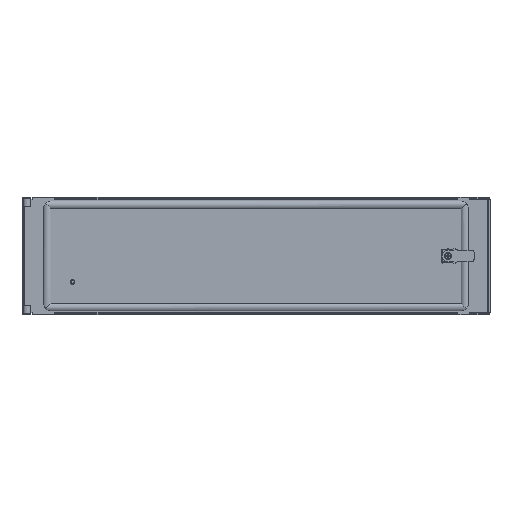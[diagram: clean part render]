
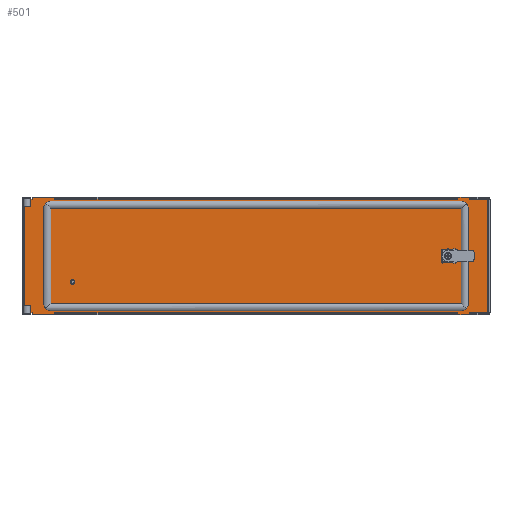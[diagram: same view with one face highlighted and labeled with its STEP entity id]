
A CAD part, top view. The second image highlights one B-rep face of the part: STEP entity #501.
In plain terms, the highlighted planar face has unit normal (0, 0, 1) as drawn and (0, 0, -1) by its records, which use the part's own axes.
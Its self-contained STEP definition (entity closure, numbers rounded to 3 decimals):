
#501=ADVANCED_FACE('',(#2674,#2676,#2678),#2680,.T.);
#2674=FACE_BOUND('',#2675,.T.);
#2675=EDGE_LOOP('',(#5351,#5352,#5353,#5354,#5355,#5356,#5357,#5358,#5359,#5360,
#5361,#5362,#5363,#5364,#5365,#5366,#5367,#5368,#5369,#5370,#5371,#5372,#5373,#5374,
#5375,#5376,#5377,#5378));
#2676=FACE_BOUND('',#2677,.T.);
#2677=EDGE_LOOP('',(#5379));
#2678=FACE_BOUND('',#2679,.T.);
#2679=EDGE_LOOP('',(#5380,#5381,#5382,#5383));
#2680=PLANE('',#2681);
#2681=AXIS2_PLACEMENT_3D('',#2682,#2683,#2684);
#2682=CARTESIAN_POINT('',(0.,0.,-2.));
#2683=DIRECTION('',(0.,0.,-1.));
#2684=DIRECTION('',(-1.,0.,0.));
#5351=ORIENTED_EDGE('',*,*,#7125,.F.);
#5352=ORIENTED_EDGE('',*,*,#7105,.F.);
#5353=ORIENTED_EDGE('',*,*,#7032,.F.);
#5354=ORIENTED_EDGE('',*,*,#7126,.F.);
#5355=ORIENTED_EDGE('',*,*,#7127,.F.);
#5356=ORIENTED_EDGE('',*,*,#7128,.F.);
#5357=ORIENTED_EDGE('',*,*,#7129,.F.);
#5358=ORIENTED_EDGE('',*,*,#7101,.F.);
#5359=ORIENTED_EDGE('',*,*,#7036,.F.);
#5360=ORIENTED_EDGE('',*,*,#7130,.F.);
#5361=ORIENTED_EDGE('',*,*,#7131,.F.);
#5362=ORIENTED_EDGE('',*,*,#7132,.F.);
#5363=ORIENTED_EDGE('',*,*,#7133,.F.);
#5364=ORIENTED_EDGE('',*,*,#7134,.F.);
#5365=ORIENTED_EDGE('',*,*,#7135,.F.);
#5366=ORIENTED_EDGE('',*,*,#7056,.F.);
#5367=ORIENTED_EDGE('',*,*,#7029,.F.);
#5368=ORIENTED_EDGE('',*,*,#7136,.T.);
#5369=ORIENTED_EDGE('',*,*,#7137,.T.);
#5370=ORIENTED_EDGE('',*,*,#7138,.T.);
#5371=ORIENTED_EDGE('',*,*,#7023,.F.);
#5372=ORIENTED_EDGE('',*,*,#7054,.F.);
#5373=ORIENTED_EDGE('',*,*,#7021,.F.);
#5374=ORIENTED_EDGE('',*,*,#7139,.T.);
#5375=ORIENTED_EDGE('',*,*,#7140,.T.);
#5376=ORIENTED_EDGE('',*,*,#7141,.T.);
#5377=ORIENTED_EDGE('',*,*,#7015,.F.);
#5378=ORIENTED_EDGE('',*,*,#7062,.F.);
#5379=ORIENTED_EDGE('',*,*,#7014,.F.);
#5380=ORIENTED_EDGE('',*,*,#7142,.F.);
#5381=ORIENTED_EDGE('',*,*,#7143,.F.);
#5382=ORIENTED_EDGE('',*,*,#7144,.F.);
#5383=ORIENTED_EDGE('',*,*,#7145,.F.);
#7014=EDGE_CURVE('',#7916,#7916,#7917,.T.);
#7015=EDGE_CURVE('',#7918,#7919,#7920,.T.);
#7021=EDGE_CURVE('',#7929,#7931,#7932,.T.);
#7023=EDGE_CURVE('',#7934,#7935,#7936,.T.);
#7029=EDGE_CURVE('',#7945,#7947,#7948,.T.);
#7032=EDGE_CURVE('',#7950,#7953,#7954,.T.);
#7036=EDGE_CURVE('',#7958,#7961,#7962,.T.);
#7054=EDGE_CURVE('',#7931,#7934,#7991,.T.);
#7056=EDGE_CURVE('',#7947,#7994,#7995,.T.);
#7062=EDGE_CURVE('',#8003,#7918,#8005,.T.);
#7101=EDGE_CURVE('',#7961,#8068,#8069,.T.);
#7105=EDGE_CURVE('',#7953,#8075,#8076,.T.);
#7125=EDGE_CURVE('',#8075,#8003,#8106,.T.);
#7126=EDGE_CURVE('',#8107,#7950,#8108,.T.);
#7127=EDGE_CURVE('',#8109,#8107,#8110,.T.);
#7128=EDGE_CURVE('',#8111,#8109,#8112,.T.);
#7129=EDGE_CURVE('',#8068,#8111,#8113,.T.);
#7130=EDGE_CURVE('',#8114,#7958,#8115,.T.);
#7131=EDGE_CURVE('',#8116,#8114,#8117,.T.);
#7132=EDGE_CURVE('',#8118,#8116,#8119,.T.);
#7133=EDGE_CURVE('',#8120,#8118,#8121,.T.);
#7134=EDGE_CURVE('',#8122,#8120,#8123,.T.);
#7135=EDGE_CURVE('',#7994,#8122,#8124,.T.);
#7136=EDGE_CURVE('',#7945,#8125,#8126,.T.);
#7137=EDGE_CURVE('',#8125,#8127,#8128,.T.);
#7138=EDGE_CURVE('',#8127,#7935,#8129,.T.);
#7139=EDGE_CURVE('',#7929,#8130,#8131,.T.);
#7140=EDGE_CURVE('',#8130,#8132,#8133,.T.);
#7141=EDGE_CURVE('',#8132,#7919,#8134,.T.);
#7142=EDGE_CURVE('',#8135,#8136,#8137,.T.);
#7143=EDGE_CURVE('',#8138,#8135,#8139,.T.);
#7144=EDGE_CURVE('',#8140,#8138,#8141,.T.);
#7145=EDGE_CURVE('',#8136,#8140,#8142,.T.);
#7916=VERTEX_POINT('',#9404);
#7917=CIRCLE('',#9405,0.5);
#7918=VERTEX_POINT('',#9409);
#7919=VERTEX_POINT('',#9410);
#7920=LINE('',#9411,#9412);
#7929=VERTEX_POINT('',#9430);
#7931=VERTEX_POINT('',#9434);
#7932=LINE('',#9435,#9436);
#7934=VERTEX_POINT('',#9441);
#7935=VERTEX_POINT('',#9442);
#7936=LINE('',#9443,#9444);
#7945=VERTEX_POINT('',#9462);
#7947=VERTEX_POINT('',#9466);
#7948=LINE('',#9467,#9468);
#7950=VERTEX_POINT('',#9473);
#7953=VERTEX_POINT('',#9478);
#7954=LINE('',#9479,#9480);
#7958=VERTEX_POINT('',#9489);
#7961=VERTEX_POINT('',#9494);
#7962=LINE('',#9495,#9496);
#7991=LINE('',#9594,#9595);
#7994=VERTEX_POINT('',#9602);
#7995=LINE('',#9603,#9604);
#8003=VERTEX_POINT('',#9635);
#8005=LINE('',#9652,#9653);
#8068=VERTEX_POINT('',#9811);
#8069=LINE('',#9812,#9813);
#8075=VERTEX_POINT('',#9828);
#8076=LINE('',#9829,#9830);
#8106=LINE('',#9912,#9913);
#8107=VERTEX_POINT('',#9915);
#8108=LINE('',#9916,#9917);
#8109=VERTEX_POINT('',#9919);
#8110=LINE('',#9920,#9921);
#8111=VERTEX_POINT('',#9923);
#8112=LINE('',#9924,#9925);
#8113=LINE('',#9927,#9928);
#8114=VERTEX_POINT('',#9930);
#8115=LINE('',#9931,#9932);
#8116=VERTEX_POINT('',#9934);
#8117=LINE('',#9935,#9936);
#8118=VERTEX_POINT('',#9938);
#8119=LINE('',#9939,#9940);
#8120=VERTEX_POINT('',#9942);
#8121=LINE('',#9943,#9944);
#8122=VERTEX_POINT('',#9946);
#8123=LINE('',#9947,#9948);
#8124=LINE('',#9950,#9951);
#8125=VERTEX_POINT('',#9953);
#8126=LINE('',#9954,#9955);
#8127=VERTEX_POINT('',#9957);
#8128=LINE('',#9958,#9959);
#8129=LINE('',#9961,#9962);
#8130=VERTEX_POINT('',#9964);
#8131=LINE('',#9965,#9966);
#8132=VERTEX_POINT('',#9968);
#8133=LINE('',#9969,#9970);
#8134=LINE('',#9972,#9973);
#8135=VERTEX_POINT('',#9975);
#8136=VERTEX_POINT('',#9976);
#8137=LINE('',#9977,#9978);
#8138=VERTEX_POINT('',#9980);
#8139=LINE('',#9981,#9982);
#8140=VERTEX_POINT('',#9984);
#8141=LINE('',#9985,#9986);
#8142=LINE('',#9988,#9989);
#9404=CARTESIAN_POINT('',(307.7,-43.5,-2.));
#9405=AXIS2_PLACEMENT_3D('',#9406,#9407,#9408);
#9406=CARTESIAN_POINT('',(308.2,-43.5,-2.));
#9407=DIRECTION('',(0.,0.,-1.));
#9408=DIRECTION('',(1.,0.,0.));
#9409=CARTESIAN_POINT('',(-360.7,-95.1,-2.));
#9410=CARTESIAN_POINT('',(-358.7,-95.1,-2.));
#9411=CARTESIAN_POINT('',(-360.7,-95.1,-2.));
#9412=VECTOR('',#9413,1.);
#9413=DIRECTION('',(1.,0.,0.));
#9430=CARTESIAN_POINT('',(-339.2,-95.1,-2.));
#9434=CARTESIAN_POINT('',(-337.2,-95.1,-2.));
#9435=CARTESIAN_POINT('',(-339.2,-95.1,-2.));
#9436=VECTOR('',#9437,1.);
#9437=DIRECTION('',(1.,0.,0.));
#9441=CARTESIAN_POINT('',(336.2,-95.1,-2.));
#9442=CARTESIAN_POINT('',(338.2,-95.1,-2.));
#9443=CARTESIAN_POINT('',(336.2,-95.1,-2.));
#9444=VECTOR('',#9445,1.);
#9445=DIRECTION('',(1.,0.,0.));
#9462=CARTESIAN_POINT('',(376.2,-95.1,-2.));
#9466=CARTESIAN_POINT('',(378.2,-95.1,-2.));
#9467=CARTESIAN_POINT('',(376.2,-95.1,-2.));
#9468=VECTOR('',#9469,1.);
#9469=DIRECTION('',(1.,0.,0.));
#9473=CARTESIAN_POINT('',(-358.7,95.1,-2.));
#9478=CARTESIAN_POINT('',(-360.7,95.1,-2.));
#9479=CARTESIAN_POINT('',(-358.7,95.1,-2.));
#9480=VECTOR('',#9481,1.);
#9481=DIRECTION('',(-1.,0.,0.));
#9489=CARTESIAN_POINT('',(338.2,95.1,-2.));
#9494=CARTESIAN_POINT('',(336.2,95.1,-2.));
#9495=CARTESIAN_POINT('',(338.2,95.1,-2.));
#9496=VECTOR('',#9497,1.);
#9497=DIRECTION('',(-1.,0.,0.));
#9594=CARTESIAN_POINT('',(-337.2,-95.1,-2.));
#9595=VECTOR('',#9596,1.);
#9596=DIRECTION('',(1.,0.,0.));
#9602=CARTESIAN_POINT('',(389.8,-95.1,-2.));
#9603=CARTESIAN_POINT('',(378.2,-95.1,-2.));
#9604=VECTOR('',#9605,1.);
#9605=DIRECTION('',(1.,0.,0.));
#9635=CARTESIAN_POINT('',(-389.8,-95.1,-2.));
#9652=CARTESIAN_POINT('',(-389.8,-95.1,-2.));
#9653=VECTOR('',#9654,1.);
#9654=DIRECTION('',(1.,0.,0.));
#9811=CARTESIAN_POINT('',(-337.2,95.1,-2.));
#9812=CARTESIAN_POINT('',(336.2,95.1,-2.));
#9813=VECTOR('',#9814,1.);
#9814=DIRECTION('',(-1.,0.,0.));
#9828=CARTESIAN_POINT('',(-389.8,95.1,-2.));
#9829=CARTESIAN_POINT('',(-360.7,95.1,-2.));
#9830=VECTOR('',#9831,1.);
#9831=DIRECTION('',(-1.,0.,0.));
#9912=CARTESIAN_POINT('',(-389.8,95.1,-2.));
#9913=VECTOR('',#9914,1.);
#9914=DIRECTION('',(0.,-1.,0.));
#9915=CARTESIAN_POINT('',(-358.7,98.5,-2.));
#9916=CARTESIAN_POINT('',(-358.7,98.5,-2.));
#9917=VECTOR('',#9918,1.);
#9918=DIRECTION('',(0.,-1.,0.));
#9919=CARTESIAN_POINT('',(-339.2,98.5,-2.));
#9920=CARTESIAN_POINT('',(-339.2,98.5,-2.));
#9921=VECTOR('',#9922,1.);
#9922=DIRECTION('',(-1.,0.,0.));
#9923=CARTESIAN_POINT('',(-339.2,95.1,-2.));
#9924=CARTESIAN_POINT('',(-339.2,95.1,-2.));
#9925=VECTOR('',#9926,1.);
#9926=DIRECTION('',(0.,1.,0.));
#9927=CARTESIAN_POINT('',(-337.2,95.1,-2.));
#9928=VECTOR('',#9929,1.);
#9929=DIRECTION('',(-1.,0.,0.));
#9930=CARTESIAN_POINT('',(338.2,98.5,-2.));
#9931=CARTESIAN_POINT('',(338.2,98.5,-2.));
#9932=VECTOR('',#9933,1.);
#9933=DIRECTION('',(0.,-1.,0.));
#9934=CARTESIAN_POINT('',(376.2,98.5,-2.));
#9935=CARTESIAN_POINT('',(376.2,98.5,-2.));
#9936=VECTOR('',#9937,1.);
#9937=DIRECTION('',(-1.,0.,0.));
#9938=CARTESIAN_POINT('',(376.2,95.1,-2.));
#9939=CARTESIAN_POINT('',(376.2,95.1,-2.));
#9940=VECTOR('',#9941,1.);
#9941=DIRECTION('',(0.,1.,0.));
#9942=CARTESIAN_POINT('',(378.2,95.1,-2.));
#9943=CARTESIAN_POINT('',(378.2,95.1,-2.));
#9944=VECTOR('',#9945,1.);
#9945=DIRECTION('',(-1.,0.,0.));
#9946=CARTESIAN_POINT('',(389.8,95.1,-2.));
#9947=CARTESIAN_POINT('',(389.8,95.1,-2.));
#9948=VECTOR('',#9949,1.);
#9949=DIRECTION('',(-1.,0.,0.));
#9950=CARTESIAN_POINT('',(389.8,-95.1,-2.));
#9951=VECTOR('',#9952,1.);
#9952=DIRECTION('',(0.,1.,0.));
#9953=CARTESIAN_POINT('',(376.2,-98.5,-2.));
#9954=CARTESIAN_POINT('',(376.2,-95.1,-2.));
#9955=VECTOR('',#9956,1.);
#9956=DIRECTION('',(0.,-1.,0.));
#9957=CARTESIAN_POINT('',(338.2,-98.5,-2.));
#9958=CARTESIAN_POINT('',(376.2,-98.5,-2.));
#9959=VECTOR('',#9960,1.);
#9960=DIRECTION('',(-1.,0.,0.));
#9961=CARTESIAN_POINT('',(338.2,-98.5,-2.));
#9962=VECTOR('',#9963,1.);
#9963=DIRECTION('',(0.,1.,0.));
#9964=CARTESIAN_POINT('',(-339.2,-98.5,-2.));
#9965=CARTESIAN_POINT('',(-339.2,-95.1,-2.));
#9966=VECTOR('',#9967,1.);
#9967=DIRECTION('',(0.,-1.,0.));
#9968=CARTESIAN_POINT('',(-358.7,-98.5,-2.));
#9969=CARTESIAN_POINT('',(-339.2,-98.5,-2.));
#9970=VECTOR('',#9971,1.);
#9971=DIRECTION('',(-1.,0.,0.));
#9972=CARTESIAN_POINT('',(-358.7,-98.5,-2.));
#9973=VECTOR('',#9974,1.);
#9974=DIRECTION('',(0.,1.,0.));
#9975=CARTESIAN_POINT('',(-333.2,-10.6,-2.));
#9976=CARTESIAN_POINT('',(-333.2,10.6,-2.));
#9977=CARTESIAN_POINT('',(-333.2,-10.6,-2.));
#9978=VECTOR('',#9979,1.);
#9979=DIRECTION('',(0.,1.,0.));
#9980=CARTESIAN_POINT('',(-312.,-10.6,-2.));
#9981=CARTESIAN_POINT('',(-312.,-10.6,-2.));
#9982=VECTOR('',#9983,1.);
#9983=DIRECTION('',(-1.,0.,0.));
#9984=CARTESIAN_POINT('',(-312.,10.6,-2.));
#9985=CARTESIAN_POINT('',(-312.,10.6,-2.));
#9986=VECTOR('',#9987,1.);
#9987=DIRECTION('',(0.,-1.,0.));
#9988=CARTESIAN_POINT('',(-333.2,10.6,-2.));
#9989=VECTOR('',#9990,1.);
#9990=DIRECTION('',(1.,0.,0.));
